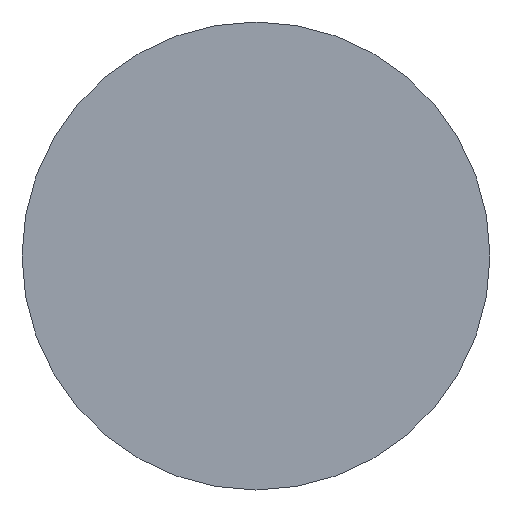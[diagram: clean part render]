
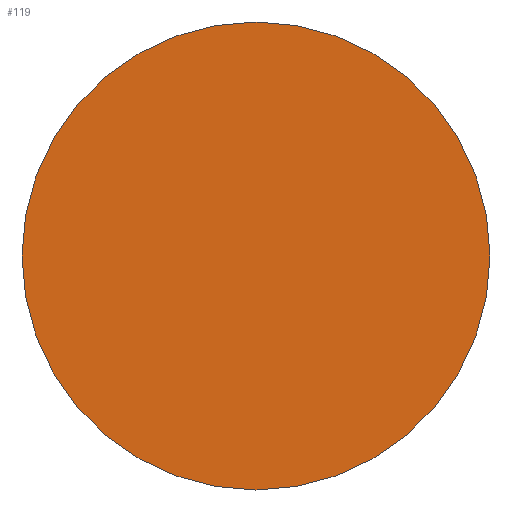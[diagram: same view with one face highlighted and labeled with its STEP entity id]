
A CAD part, left-side view. The second image highlights one B-rep face of the part: STEP entity #119.
In plain terms, the highlighted planar face has unit normal (-1, 0, 0).
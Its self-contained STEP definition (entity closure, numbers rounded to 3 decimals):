
#1 = CARTESIAN_POINT ( 'NONE',  ( -99.5, 0., -5.5 ) ) ;
#2 = VERTEX_POINT ( 'NONE', #49 ) ;
#5 = VERTEX_POINT ( 'NONE', #1 ) ;
#22 = CARTESIAN_POINT ( 'NONE',  ( -99.5, 0., 0. ) ) ;
#25 = DIRECTION ( 'NONE',  ( -1., 0., 0. ) ) ;
#28 = DIRECTION ( 'NONE',  ( 0., 0., 1. ) ) ;
#30 = DIRECTION ( 'NONE',  ( -1., 0., 0. ) ) ;
#31 = DIRECTION ( 'NONE',  ( 0., 0., 1. ) ) ;
#32 = CARTESIAN_POINT ( 'NONE',  ( -99.5, 0., 0. ) ) ;
#35 = DIRECTION ( 'NONE',  ( -1., 0., 0. ) ) ;
#36 = DIRECTION ( 'NONE',  ( 0., 0., 1. ) ) ;
#41 = CARTESIAN_POINT ( 'NONE',  ( -99.5, 0., 0. ) ) ;
#42 = PLANE ( 'NONE',  #104 ) ;
#49 = CARTESIAN_POINT ( 'NONE',  ( -99.5, 0., 5.5 ) ) ;
#52 = EDGE_LOOP ( 'NONE', ( #60, #56 ) ) ;
#56 = ORIENTED_EDGE ( 'NONE', *, *, #113, .T. ) ;
#60 = ORIENTED_EDGE ( 'NONE', *, *, #115, .T. ) ;
#63 = FACE_OUTER_BOUND ( 'NONE', #52, .T. ) ;
#64 = CIRCLE ( 'NONE', #114, 5.5 ) ;
#83 = CIRCLE ( 'NONE', #99, 5.5 ) ;
#99 = AXIS2_PLACEMENT_3D ( 'NONE', #22, #30, #31 ) ;
#104 = AXIS2_PLACEMENT_3D ( 'NONE', #41, #25, #28 ) ;
#113 = EDGE_CURVE ( 'NONE', #5, #2, #83, .T. ) ;
#114 = AXIS2_PLACEMENT_3D ( 'NONE', #32, #35, #36 ) ;
#115 = EDGE_CURVE ( 'NONE', #2, #5, #64, .T. ) ;
#119 = ADVANCED_FACE ( 'NONE', ( #63 ), #42, .T. ) ;
